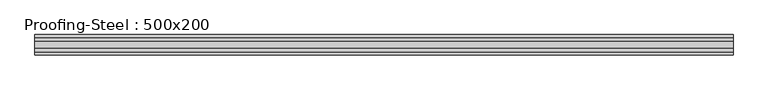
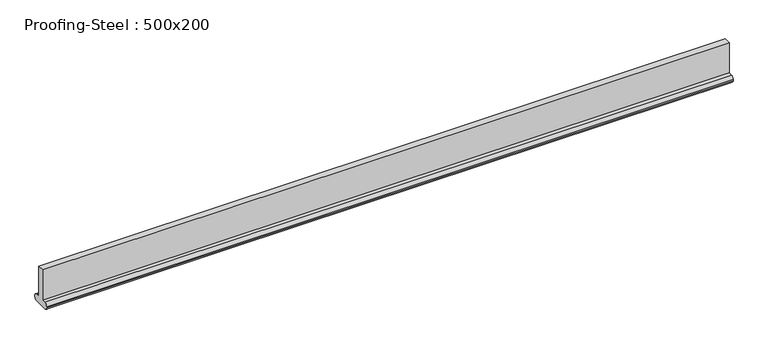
"""IFC4 building model written with IfcOpenShell, lengths in millimetres: beam geometry, Proofing-Steel : 500x200."""

from ifc_helpers import new_model, si_unit, point, frame, frame_2d, origin, place, context, project, spatial, polyline, circle_curve, trimmed, segment, composite_curve, outline, extrude, source, transform, mapped, element, save


def proofing_steel_500x200_7034851e(model_context):
    return source(origin(), model_context, "Body", "SweptSolid", [
        extrude(outline(composite_curve([segment(polyline([(-45.0, -194.0), (-45.0, 250.0), (45.0, 250.0), (45.0, -194.0), (100.0, -194.0)]), True, "CONTINUOUS"), segment(trimmed(circle_curve(frame_2d((100.0, -234.0)), 40.0), [point((100.0, -194.0))], [point((140.0, -234.0))], False, "CARTESIAN"), True, "CONTINUOUS"), segment(polyline([(140.0, -234.0), (140.0, -250.0)]), True, "CONTINUOUS"), segment(trimmed(circle_curve(frame_2d((100.0, -250.0)), 40.0), [point((140.0, -250.0))], [point((100.0, -290.0))], False, "CARTESIAN"), True, "CONTINUOUS"), segment(polyline([(100.0, -290.0), (-100.0, -290.0)]), True, "CONTINUOUS"), segment(trimmed(circle_curve(frame_2d((-100.0, -250.0)), 40.0), [point((-100.0, -290.0))], [point((-140.0, -250.0))], False, "CARTESIAN"), True, "CONTINUOUS"), segment(polyline([(-140.0, -250.0), (-140.0, -234.0)]), True, "CONTINUOUS"), segment(trimmed(circle_curve(frame_2d((-100.0, -234.0)), 40.0), [point((-140.0, -234.0))], [point((-100.0, -194.0))], False, "CARTESIAN"), True, "CONTINUOUS"), segment(polyline([(-100.0, -194.0), (-45.0, -194.0)]), True, "CONTINUOUS")], self_intersect=False)), frame((-4081.7399979, 0.0, 0.0), z_axis=(1.0, 0.0, 0.0), x_axis=(0.0, 1.0, 0.0)), (0.0, 0.0, 1.0), 9528.98),
    ])


if __name__ == "__main__":
    model = new_model("IFC4")
    model_context = context("Model", 3, world=origin())
    ifc_project = project(units=[si_unit("LENGTHUNIT", "METRE", prefix="MILLI")], contexts=[model_context])
    site = spatial("IfcSite", under=ifc_project)
    building = spatial("IfcBuilding", under=site)
    placement = place(None, origin())
    proofing_steel_500x200_shape = proofing_steel_500x200_7034851e(model_context)
    element("IfcBeam", 1, ObjectType="Proofing-Steel : 500x200", at=placement, inside=building, context=model_context, shape_type="MappedRepresentation", body=[
        mapped(proofing_steel_500x200_shape, transform((0.0, 0.0, 0.0), x_axis=(1.0, 0.0, 0.0), y_axis=(0.0, 1.0, 0.0), z_axis=(0.0, 0.0, 1.0))),
    ])
    save(model, "model.ifc")
